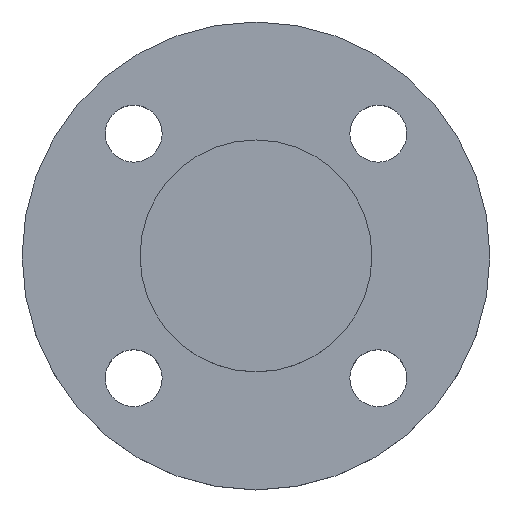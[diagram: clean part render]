
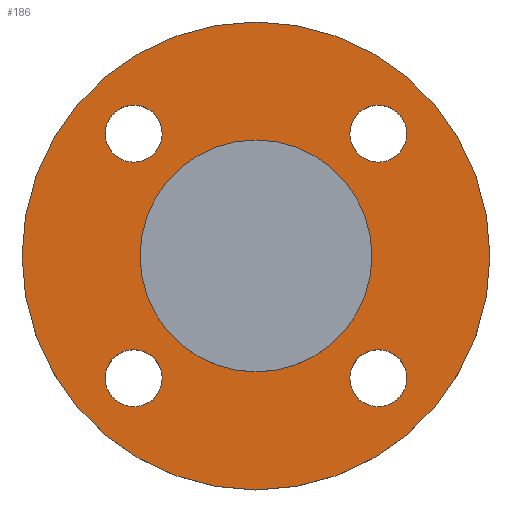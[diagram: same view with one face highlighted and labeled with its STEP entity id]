
A CAD part, top view. The second image highlights one B-rep face of the part: STEP entity #186.
In plain terms, the highlighted planar face has unit normal (0, 0, 1).
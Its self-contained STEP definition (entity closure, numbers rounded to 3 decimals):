
#5 = CARTESIAN_POINT ( 'NONE',  ( 30.052, 30.052, -4.5 ) ) ;
#8 = AXIS2_PLACEMENT_3D ( 'NONE', #238, #239, #240 ) ;
#9 = CARTESIAN_POINT ( 'NONE',  ( 37.052, -30.052, -4.5 ) ) ;
#10 = AXIS2_PLACEMENT_3D ( 'NONE', #329, #330, #331 ) ;
#13 = EDGE_CURVE ( 'NONE', #453, #400, #214, .T. ) ;
#15 = CIRCLE ( 'NONE', #10, 7. ) ;
#17 = AXIS2_PLACEMENT_3D ( 'NONE', #636, #637, #638 ) ;
#23 = EDGE_CURVE ( 'NONE', #583, #387, #608, .T. ) ;
#25 = AXIS2_PLACEMENT_3D ( 'NONE', #629, #631, #632 ) ;
#78 = AXIS2_PLACEMENT_3D ( 'NONE', #271, #274, #275 ) ;
#87 = EDGE_CURVE ( 'NONE', #400, #453, #481, .T. ) ;
#92 = CIRCLE ( 'NONE', #434, 7. ) ;
#107 = EDGE_CURVE ( 'NONE', #510, #396, #358, .T. ) ;
#108 = DIRECTION ( 'NONE',  ( 0., 0., -1. ) ) ;
#138 = CARTESIAN_POINT ( 'NONE',  ( 37.052, 30.052, -4.5 ) ) ;
#155 = CARTESIAN_POINT ( 'NONE',  ( 30.052, -30.052, -4.5 ) ) ;
#156 = AXIS2_PLACEMENT_3D ( 'NONE', #226, #228, #229 ) ;
#161 = DIRECTION ( 'NONE',  ( 1., 0., 0. ) ) ;
#173 = DIRECTION ( 'NONE',  ( 0., 0., -1. ) ) ;
#181 = DIRECTION ( 'NONE',  ( 1., 0., 0. ) ) ;
#186 = ADVANCED_FACE ( 'NONE', ( #715, #717, #718, #719, #720, #721 ), #722, .T. ) ;
#193 = CARTESIAN_POINT ( 'NONE',  ( -57.5, 0., -4.5 ) ) ;
#214 = CIRCLE ( 'NONE', #25, 28.5 ) ;
#226 = CARTESIAN_POINT ( 'NONE',  ( -30.052, 30.052, -4.5 ) ) ;
#227 = CIRCLE ( 'NONE', #332, 7. ) ;
#228 = DIRECTION ( 'NONE',  ( 0., 0., -1. ) ) ;
#229 = DIRECTION ( 'NONE',  ( 1., 0., 0. ) ) ;
#237 = EDGE_CURVE ( 'NONE', #597, #470, #92, .T. ) ;
#238 = CARTESIAN_POINT ( 'NONE',  ( 30.052, -30.052, -4.5 ) ) ;
#239 = DIRECTION ( 'NONE',  ( 0., 0., -1. ) ) ;
#240 = DIRECTION ( 'NONE',  ( 1., 0., 0. ) ) ;
#262 = EDGE_CURVE ( 'NONE', #456, #422, #364, .T. ) ;
#271 = CARTESIAN_POINT ( 'NONE',  ( 0., 0., -4.5 ) ) ;
#273 = EDGE_CURVE ( 'NONE', #498, #493, #525, .T. ) ;
#274 = DIRECTION ( 'NONE',  ( 0., 0., -1. ) ) ;
#275 = DIRECTION ( 'NONE',  ( -1., 0., 0. ) ) ;
#291 = AXIS2_PLACEMENT_3D ( 'NONE', #676, #680, #681 ) ;
#312 = CARTESIAN_POINT ( 'NONE',  ( 57.5, 0., -4.5 ) ) ;
#316 = CARTESIAN_POINT ( 'NONE',  ( -23.052, -30.052, -4.5 ) ) ;
#318 = CARTESIAN_POINT ( 'NONE',  ( 28.5, 0., -4.5 ) ) ;
#327 = CARTESIAN_POINT ( 'NONE',  ( -23.052, 30.052, -4.5 ) ) ;
#329 = CARTESIAN_POINT ( 'NONE',  ( -30.052, -30.052, -4.5 ) ) ;
#330 = DIRECTION ( 'NONE',  ( 0., 0., -1. ) ) ;
#331 = DIRECTION ( 'NONE',  ( 1., 0., 0. ) ) ;
#332 = AXIS2_PLACEMENT_3D ( 'NONE', #334, #335, #338 ) ;
#333 = CARTESIAN_POINT ( 'NONE',  ( -28.5, 0., -4.5 ) ) ;
#334 = CARTESIAN_POINT ( 'NONE',  ( -30.052, 30.052, -4.5 ) ) ;
#335 = DIRECTION ( 'NONE',  ( 0., 0., -1. ) ) ;
#338 = DIRECTION ( 'NONE',  ( 1., 0., 0. ) ) ;
#344 = CARTESIAN_POINT ( 'NONE',  ( 23.052, 30.052, -4.5 ) ) ;
#346 = CARTESIAN_POINT ( 'NONE',  ( -37.052, 30.052, -4.5 ) ) ;
#353 = CARTESIAN_POINT ( 'NONE',  ( 30.052, 30.052, -4.5 ) ) ;
#354 = DIRECTION ( 'NONE',  ( 0., 0., -1. ) ) ;
#356 = DIRECTION ( 'NONE',  ( 1., 0., 0. ) ) ;
#358 = CIRCLE ( 'NONE', #291, 7. ) ;
#359 = EDGE_CURVE ( 'NONE', #387, #583, #496, .T. ) ;
#360 = CARTESIAN_POINT ( 'NONE',  ( 23.052, -30.052, -4.5 ) ) ;
#362 = CARTESIAN_POINT ( 'NONE',  ( -37.052, -30.052, -4.5 ) ) ;
#364 = CIRCLE ( 'NONE', #156, 7. ) ;
#369 = AXIS2_PLACEMENT_3D ( 'NONE', #155, #173, #181 ) ;
#371 = CIRCLE ( 'NONE', #369, 7. ) ;
#387 = VERTEX_POINT ( 'NONE', #312 ) ;
#388 = EDGE_LOOP ( 'NONE', ( #507, #513 ) ) ;
#396 = VERTEX_POINT ( 'NONE', #316 ) ;
#397 = EDGE_LOOP ( 'NONE', ( #516, #517 ) ) ;
#398 = EDGE_LOOP ( 'NONE', ( #494, #497 ) ) ;
#400 = VERTEX_POINT ( 'NONE', #318 ) ;
#422 = VERTEX_POINT ( 'NONE', #327 ) ;
#423 = AXIS2_PLACEMENT_3D ( 'NONE', #353, #354, #356 ) ;
#425 = CIRCLE ( 'NONE', #423, 7. ) ;
#434 = AXIS2_PLACEMENT_3D ( 'NONE', #5, #108, #161 ) ;
#448 = EDGE_CURVE ( 'NONE', #396, #510, #15, .T. ) ;
#453 = VERTEX_POINT ( 'NONE', #333 ) ;
#455 = EDGE_CURVE ( 'NONE', #422, #456, #227, .T. ) ;
#456 = VERTEX_POINT ( 'NONE', #346 ) ;
#458 = EDGE_LOOP ( 'NONE', ( #504, #506 ) ) ;
#470 = VERTEX_POINT ( 'NONE', #344 ) ;
#481 = CIRCLE ( 'NONE', #604, 28.5 ) ;
#491 = ORIENTED_EDGE ( 'NONE', *, *, #577, .T. ) ;
#492 = ORIENTED_EDGE ( 'NONE', *, *, #273, .T. ) ;
#493 = VERTEX_POINT ( 'NONE', #9 ) ;
#494 = ORIENTED_EDGE ( 'NONE', *, *, #448, .T. ) ;
#496 = CIRCLE ( 'NONE', #78, 57.5 ) ;
#497 = ORIENTED_EDGE ( 'NONE', *, *, #107, .T. ) ;
#498 = VERTEX_POINT ( 'NONE', #360 ) ;
#504 = ORIENTED_EDGE ( 'NONE', *, *, #455, .T. ) ;
#506 = ORIENTED_EDGE ( 'NONE', *, *, #262, .T. ) ;
#507 = ORIENTED_EDGE ( 'NONE', *, *, #237, .T. ) ;
#509 = EDGE_CURVE ( 'NONE', #470, #597, #425, .T. ) ;
#510 = VERTEX_POINT ( 'NONE', #362 ) ;
#513 = ORIENTED_EDGE ( 'NONE', *, *, #509, .T. ) ;
#514 = ORIENTED_EDGE ( 'NONE', *, *, #13, .T. ) ;
#515 = ORIENTED_EDGE ( 'NONE', *, *, #87, .T. ) ;
#516 = ORIENTED_EDGE ( 'NONE', *, *, #359, .F. ) ;
#517 = ORIENTED_EDGE ( 'NONE', *, *, #23, .F. ) ;
#525 = CIRCLE ( 'NONE', #8, 7. ) ;
#569 = EDGE_LOOP ( 'NONE', ( #514, #515 ) ) ;
#577 = EDGE_CURVE ( 'NONE', #493, #498, #371, .T. ) ;
#583 = VERTEX_POINT ( 'NONE', #193 ) ;
#589 = AXIS2_PLACEMENT_3D ( 'NONE', #723, #724, #725 ) ;
#597 = VERTEX_POINT ( 'NONE', #138 ) ;
#602 = EDGE_LOOP ( 'NONE', ( #491, #492 ) ) ;
#604 = AXIS2_PLACEMENT_3D ( 'NONE', #669, #670, #671 ) ;
#608 = CIRCLE ( 'NONE', #17, 57.5 ) ;
#629 = CARTESIAN_POINT ( 'NONE',  ( 0., 0., -4.5 ) ) ;
#631 = DIRECTION ( 'NONE',  ( 0., 0., -1. ) ) ;
#632 = DIRECTION ( 'NONE',  ( -1., 0., 0. ) ) ;
#636 = CARTESIAN_POINT ( 'NONE',  ( 0., 0., -4.5 ) ) ;
#637 = DIRECTION ( 'NONE',  ( 0., 0., -1. ) ) ;
#638 = DIRECTION ( 'NONE',  ( -1., 0., 0. ) ) ;
#669 = CARTESIAN_POINT ( 'NONE',  ( 0., 0., -4.5 ) ) ;
#670 = DIRECTION ( 'NONE',  ( 0., 0., -1. ) ) ;
#671 = DIRECTION ( 'NONE',  ( -1., 0., 0. ) ) ;
#676 = CARTESIAN_POINT ( 'NONE',  ( -30.052, -30.052, -4.5 ) ) ;
#680 = DIRECTION ( 'NONE',  ( 0., 0., -1. ) ) ;
#681 = DIRECTION ( 'NONE',  ( 1., 0., 0. ) ) ;
#715 = FACE_BOUND ( 'NONE', #602, .T. ) ;
#717 = FACE_BOUND ( 'NONE', #398, .T. ) ;
#718 = FACE_BOUND ( 'NONE', #458, .T. ) ;
#719 = FACE_BOUND ( 'NONE', #388, .T. ) ;
#720 = FACE_BOUND ( 'NONE', #569, .T. ) ;
#721 = FACE_OUTER_BOUND ( 'NONE', #397, .T. ) ;
#722 = PLANE ( 'NONE',  #589 ) ;
#723 = CARTESIAN_POINT ( 'NONE',  ( 28.5, 0., -4.5 ) ) ;
#724 = DIRECTION ( 'NONE',  ( 0., 0., 1. ) ) ;
#725 = DIRECTION ( 'NONE',  ( 1., 0., 0. ) ) ;
